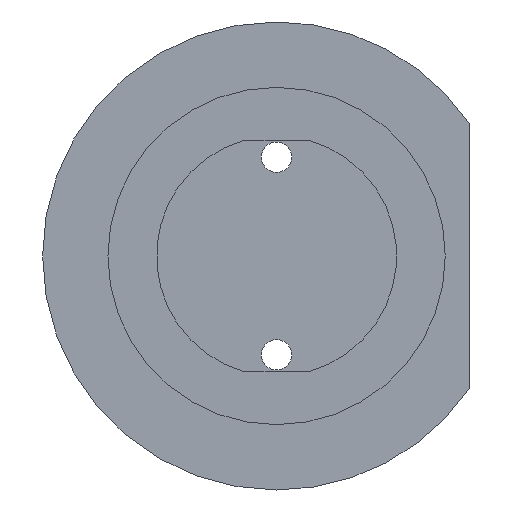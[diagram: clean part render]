
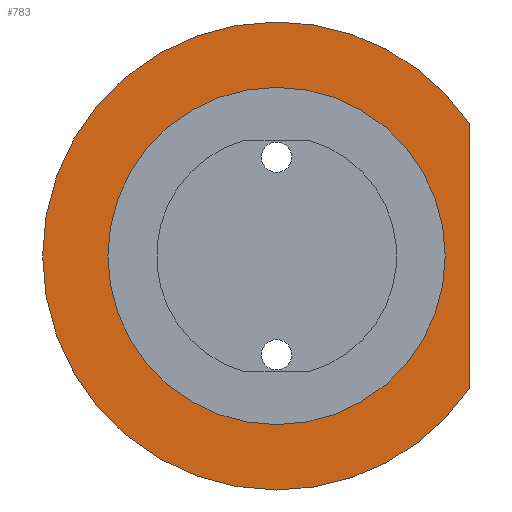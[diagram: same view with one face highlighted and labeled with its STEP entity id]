
A CAD part, front view. The second image highlights one B-rep face of the part: STEP entity #783.
In plain terms, the highlighted planar face has unit normal (0, -1, 0).
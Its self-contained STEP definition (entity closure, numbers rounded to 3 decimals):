
#5 = DIRECTION ( 'NONE',  ( 0., 0., -1. ) ) ;
#18 = VERTEX_POINT ( 'NONE', #704 ) ;
#21 = DIRECTION ( 'NONE',  ( 0., -1., 0. ) ) ;
#23 = VERTEX_POINT ( 'NONE', #702 ) ;
#36 = CARTESIAN_POINT ( 'NONE',  ( 0., 0., 0. ) ) ;
#37 = FACE_OUTER_BOUND ( 'NONE', #488, .T. ) ;
#38 = EDGE_LOOP ( 'NONE', ( #651, #494 ) ) ;
#53 = FACE_BOUND ( 'NONE', #38, .T. ) ;
#80 = CIRCLE ( 'NONE', #435, 7.7 ) ;
#205 = ORIENTED_EDGE ( 'NONE', *, *, #905, .T. ) ;
#271 = CIRCLE ( 'NONE', #421, 7.7 ) ;
#310 = ORIENTED_EDGE ( 'NONE', *, *, #887, .T. ) ;
#333 = DIRECTION ( 'NONE',  ( 0., 0., -1. ) ) ;
#334 = DIRECTION ( 'NONE',  ( 0., -1., 0. ) ) ;
#338 = CARTESIAN_POINT ( 'NONE',  ( 0., 0., 0. ) ) ;
#366 = VERTEX_POINT ( 'NONE', #940 ) ;
#370 = DIRECTION ( 'NONE',  ( 0., 0., -1. ) ) ;
#371 = DIRECTION ( 'NONE',  ( 0., -1., 0. ) ) ;
#372 = DIRECTION ( 'NONE',  ( 0., 0., 1. ) ) ;
#375 = DIRECTION ( 'NONE',  ( 0., 0., -1. ) ) ;
#377 = DIRECTION ( 'NONE',  ( 0., -1., 0. ) ) ;
#378 = CARTESIAN_POINT ( 'NONE',  ( 0., 0., 0. ) ) ;
#379 = CARTESIAN_POINT ( 'NONE',  ( 6.344, 0., 4. ) ) ;
#383 = AXIS2_PLACEMENT_3D ( 'NONE', #338, #334, #333 ) ;
#398 = CARTESIAN_POINT ( 'NONE',  ( 0., 0., 0. ) ) ;
#403 = AXIS2_PLACEMENT_3D ( 'NONE', #378, #377, #375 ) ;
#421 = AXIS2_PLACEMENT_3D ( 'NONE', #441, #438, #437 ) ;
#435 = AXIS2_PLACEMENT_3D ( 'NONE', #36, #21, #5 ) ;
#437 = DIRECTION ( 'NONE',  ( 0., 0., -1. ) ) ;
#438 = DIRECTION ( 'NONE',  ( 0., -1., 0. ) ) ;
#441 = CARTESIAN_POINT ( 'NONE',  ( 0., 0., 0. ) ) ;
#459 = AXIS2_PLACEMENT_3D ( 'NONE', #398, #371, #370 ) ;
#474 = VERTEX_POINT ( 'NONE', #852 ) ;
#488 = EDGE_LOOP ( 'NONE', ( #959, #537, #310, #205 ) ) ;
#490 = AXIS2_PLACEMENT_3D ( 'NONE', #581, #563, #559 ) ;
#494 = ORIENTED_EDGE ( 'NONE', *, *, #842, .F. ) ;
#537 = ORIENTED_EDGE ( 'NONE', *, *, #879, .T. ) ;
#559 = DIRECTION ( 'NONE',  ( 0., 0., 1. ) ) ;
#563 = DIRECTION ( 'NONE',  ( 0., 1., 0. ) ) ;
#567 = PLANE ( 'NONE',  #490 ) ;
#581 = CARTESIAN_POINT ( 'NONE',  ( 0., 0., 0. ) ) ;
#651 = ORIENTED_EDGE ( 'NONE', *, *, #918, .F. ) ;
#685 = CARTESIAN_POINT ( 'NONE',  ( 0., 0., -5.55 ) ) ;
#689 = VERTEX_POINT ( 'NONE', #765 ) ;
#697 = VECTOR ( 'NONE', #372, 1000. ) ;
#702 = CARTESIAN_POINT ( 'NONE',  ( 0., 0., -7.7 ) ) ;
#704 = CARTESIAN_POINT ( 'NONE',  ( 0., 0., 7.7 ) ) ;
#736 = CIRCLE ( 'NONE', #403, 7.7 ) ;
#740 = LINE ( 'NONE', #379, #697 ) ;
#742 = VERTEX_POINT ( 'NONE', #685 ) ;
#765 = CARTESIAN_POINT ( 'NONE',  ( 0., 0., 5.55 ) ) ;
#783 = ADVANCED_FACE ( 'NONE', ( #53, #37 ), #567, .F. ) ;
#840 = CIRCLE ( 'NONE', #383, 5.55 ) ;
#842 = EDGE_CURVE ( 'NONE', #689, #742, #1045, .T. ) ;
#852 = CARTESIAN_POINT ( 'NONE',  ( 6.344, 0., -4.363 ) ) ;
#879 = EDGE_CURVE ( 'NONE', #366, #18, #80, .T. ) ;
#887 = EDGE_CURVE ( 'NONE', #18, #23, #271, .T. ) ;
#905 = EDGE_CURVE ( 'NONE', #23, #474, #736, .T. ) ;
#907 = EDGE_CURVE ( 'NONE', #474, #366, #740, .T. ) ;
#918 = EDGE_CURVE ( 'NONE', #742, #689, #840, .T. ) ;
#940 = CARTESIAN_POINT ( 'NONE',  ( 6.344, 0., 4.363 ) ) ;
#959 = ORIENTED_EDGE ( 'NONE', *, *, #907, .T. ) ;
#1045 = CIRCLE ( 'NONE', #459, 5.55 ) ;
